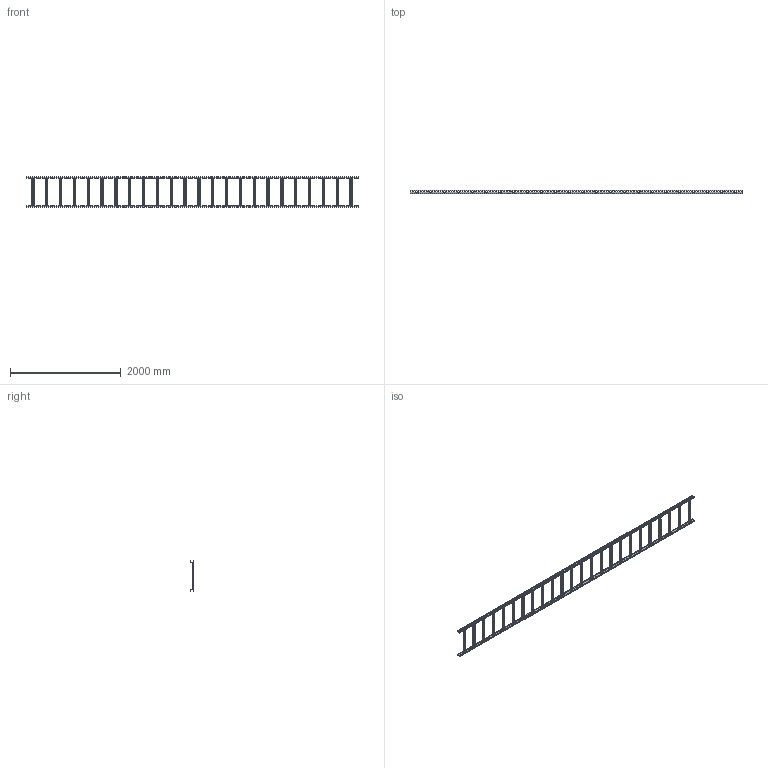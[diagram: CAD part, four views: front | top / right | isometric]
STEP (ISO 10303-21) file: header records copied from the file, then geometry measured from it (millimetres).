
FILE_DESCRIPTION(/* description */ (''),/* implementation_level */ '2;1');
FILE_NAME(/* name */ 'D:\Inventor projects\Biblioteka 3D\STP\WP 60-50.stp',/* time_stamp */ '2021-06-18T10:21:37+02:00',/* author */ ('psynowiec'),/* organization */ (''),/* preprocessor_version */ 'ST-DEVELOPER v16.13',/* originating_system */ 'Autodesk Inventor 2018',/* authorisation */ '');
FILE_SCHEMA (('AUTOMOTIVE_DESIGN { 1 0 10303 214 3 1 1 }'));
Products named in the file (1): WP 60-50
Bounding box: 6000 x 60 x 550.03 mm (x, y, z)
Volume: 3819503 mm3; surface area: 5240483.2 mm2
Topology: 26 solids, 26 shells, 5590 faces, 18134 edges, 11684 vertices
Faces by surface type: plane 4044, cylinder 1546
Full cylindrical faces by diameter (mm): 7 x42
Entity records: 211398 total; most frequent: CARTESIAN_POINT 49815, ORIENTED_EDGE 36184, DIRECTION 32174, EDGE_CURVE 18092, VERTEX_POINT 11684, LINE 11160, VECTOR 11160, AXIS2_PLACEMENT_3D 10507
